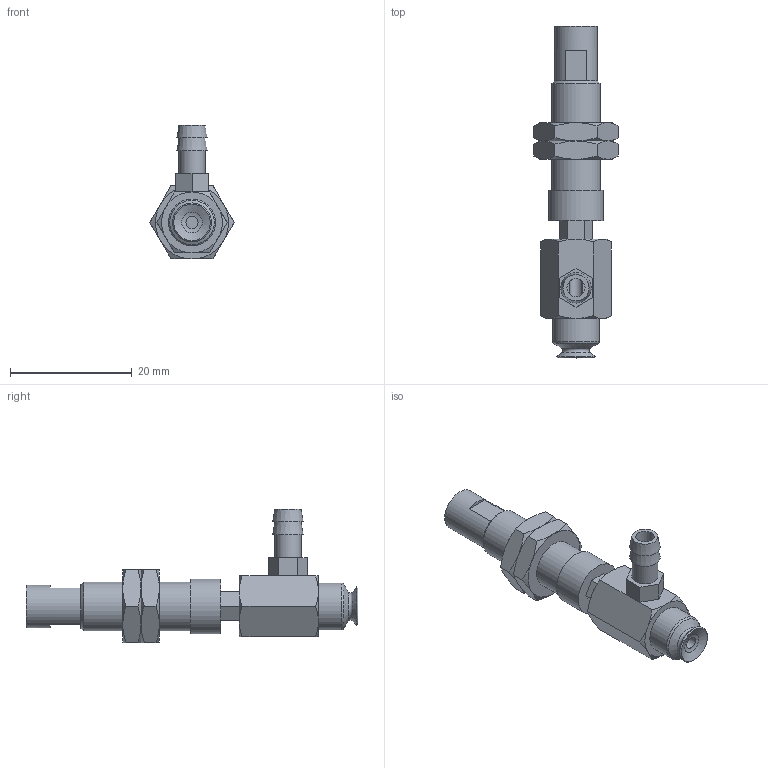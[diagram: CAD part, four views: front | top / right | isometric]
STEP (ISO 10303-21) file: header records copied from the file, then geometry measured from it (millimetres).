
FILE_DESCRIPTION(('STEP AP203'),'1');
FILE_NAME('-T.stp','2025-04-10T02:51:58',(' '),(' '),'Spatial InterOp 3D',' ',' ');
FILE_SCHEMA(('CONFIG_CONTROL_DESIGN'));
Length unit declared in the file: millimetre
Products named in the file (7): BNABPFYH-6A-3-※-T; CONNECTOR-H-6A-3; Nut-6A-3-h; NAPFTH-6A-3-FBODY; NAPFTH-6A-3-MBODY; BPFG-6A-※; T
Assembly tree (7 placements, depth 2):
  BNABPFYH-6A-3-※-T
    CONNECTOR-H-6A-3
    Nut-6A-3-h  x2
    NAPFTH-6A-3-FBODY
    NAPFTH-6A-3-MBODY
    BPFG-6A-※
    T
Bounding box: 13.86 x 54.5 x 22 mm (x, y, z)
Volume: 3426.3 mm3; surface area: 4346.6 mm2
Topology: 7 solids, 7 shells, 156 faces, 335 edges, 205 vertices
Faces by surface type: plane 74, cone 54, cylinder 18, torus 9, bspline 1
Full cylindrical faces by diameter (mm): 2 x2, 3 x1, 4 x2, 4.134 x2, 4.3 x1, 5 x2, 6 x2, 7 x1, 7.188 x2, 7.7 x1, 8 x1, 9 x1
Entity records: 3929 total; most frequent: CARTESIAN_POINT 922, DIRECTION 552, ORIENTED_EDGE 474, EDGE_CURVE 237, AXIS2_PLACEMENT_3D 229, EDGE_LOOP 198, VERTEX_POINT 169, FACE_OUTER_BOUND 160
